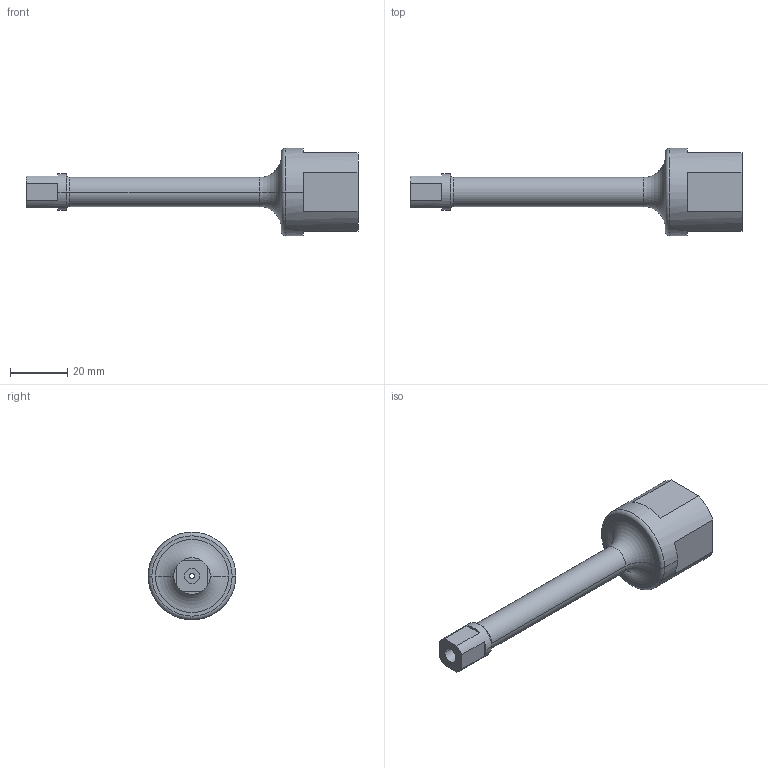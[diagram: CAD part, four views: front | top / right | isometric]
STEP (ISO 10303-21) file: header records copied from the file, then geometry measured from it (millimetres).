
FILE_DESCRIPTION(('Creo Elements/Direct Modeling STEP Export'),'2;1');
FILE_NAME('014-2875 (Gas pressure cell 1kbar).stp','2026-01-28T11:08:35',(''),(''),'Creo Elements/Direct Modeling STEP processor for AP214 (Solid Model)','Creo Elements/Direct Modeling 20.6A 14-Oct-2023 (C) Parametric Technology GmbH','');
FILE_SCHEMA(('AUTOMOTIVE_DESIGN { 1 0 10303 214 1 1 1 1 }'));
Length unit declared in the file: millimetre
Products named in the file (1): press_cell_AF1_LF6
Bounding box: 115.57 x 30.48 x 30.48 mm (x, y, z)
Volume: 21727.1 mm3; surface area: 9242.6 mm2
Topology: 1 solids, 1 shells, 47 faces, 112 edges, 70 vertices
Faces by surface type: plane 21, cylinder 14, torus 6, cone 4, sphere 2
Entity records: 1577 total; most frequent: CARTESIAN_POINT 509, ORIENTED_EDGE 224, DIRECTION 214, EDGE_CURVE 112, AXIS2_PLACEMENT_3D 82, VERTEX_POINT 70, EDGE_LOOP 52, VECTOR 50
